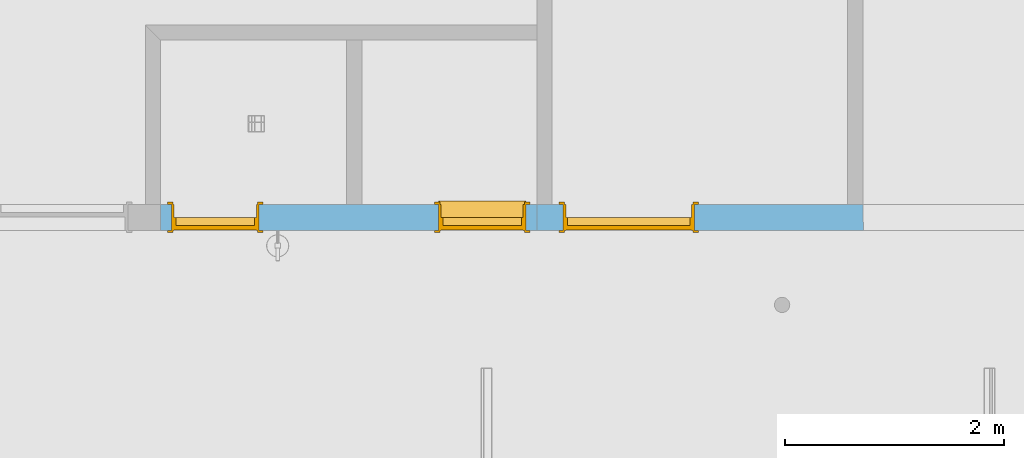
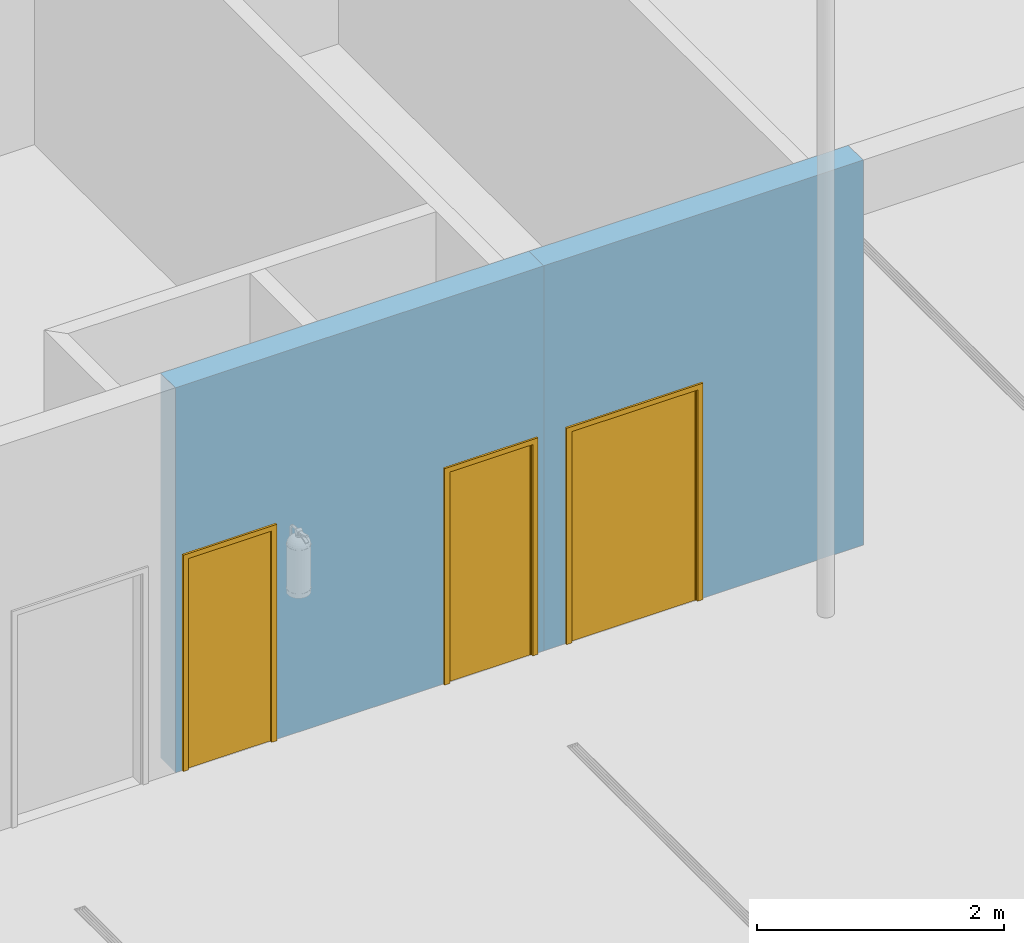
# One storey, part 42 of 112: 3 doors, 3 openings, plus 2 elements that do not belong to this part.
"""IFC2X3 building model written with IfcOpenShell, lengths in millimetres."""

from ifc_helpers import new_model, entity, si_unit, converted_unit, derived_unit, money_unit, direction, frame, origin_with_axes, origin_2d_with_axis, place, context, subcontext, project, spatial, polyline, rectangle, outline, extrude, faceted_brep, material, layer, layer_set, layer_usage, type_object, element, fill, save


model = new_model("IFC2X3")

# Units and contexts
model_context = context("Model", 3, precision=0.01, world=origin_with_axes(), true_north=direction((0.0, 1.0)))
body_context = subcontext(model_context, "Body", "Model", "MODEL_VIEW")
ifc_project = project(units=[si_unit("LENGTHUNIT", "METRE", prefix="MILLI"), si_unit("AREAUNIT", "SQUARE_METRE"), si_unit("VOLUMEUNIT", "CUBIC_METRE"), converted_unit("PLANEANGLEUNIT", "DEGREE", entity("IfcPlaneAngleMeasure", 0.0174532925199), si_unit("PLANEANGLEUNIT", "RADIAN"), dimensions=[0, 0, 0, 0, 0, 0, 0]), si_unit("SOLIDANGLEUNIT", "STERADIAN"), money_unit("EUR"), converted_unit("TIMEUNIT", "Year", entity("IfcTimeMeasure", 31556926.0), si_unit("TIMEUNIT", "SECOND"), dimensions=[0, 0, 1, 0, 0, 0, 0]), si_unit("MASSUNIT", "GRAM", prefix="KILO"), si_unit("THERMODYNAMICTEMPERATUREUNIT", "DEGREE_CELSIUS"), si_unit("LUMINOUSINTENSITYUNIT", "LUMEN"), si_unit("ENERGYUNIT", "JOULE", prefix="MEGA"), derived_unit("THERMALCONDUCTANCEUNIT", [(si_unit("POWERUNIT", "WATT"), 1), (si_unit("LENGTHUNIT", "METRE"), -1), (si_unit("THERMODYNAMICTEMPERATUREUNIT", "KELVIN"), -1)]), derived_unit("SPECIFICHEATCAPACITYUNIT", [(si_unit("ENERGYUNIT", "JOULE"), 1), (si_unit("MASSUNIT", "GRAM", prefix="KILO"), -1), (si_unit("THERMODYNAMICTEMPERATUREUNIT", "KELVIN"), -1)]), derived_unit("MASSDENSITYUNIT", [(si_unit("MASSUNIT", "GRAM", prefix="KILO"), 1), (si_unit("VOLUMEUNIT", "CUBIC_METRE"), -1)])], contexts=[model_context])

# Site, building, storey
site_placement = place(None, origin_with_axes())
site = spatial("IfcSite", under=ifc_project, at=site_placement, Name="Politse- ja Piirivalveameti ning Päästeameti ühishoone", CompositionType="ELEMENT")
building_placement = place(site_placement, origin_with_axes())
building = spatial("IfcBuilding", under=site, at=building_placement, Name="Politse- ja Piirivalveameti ning Päästeameti ühishoone", CompositionType="ELEMENT")
storey_placement = place(building_placement, origin_with_axes())
storey = spatial("IfcBuildingStorey", under=building, at=storey_placement, Name="Esimene korrus", CompositionType="ELEMENT", Elevation=0.0)

# Wall, openings, doors
ifc_material = material(Name="KON-05_Betoon Plokk - Konstuktsioon")
ifc_layer = layer(ifc_material, 240.0, ventilated="UNKNOWN")
ifc_layer_set = layer_set([ifc_layer], Name="SS-04_Sisesein 240")
ifc_layer_usage_1 = layer_usage(ifc_layer_set, "AXIS2", "NEGATIVE", 0.0)
wall_type = type_object("IfcWallType", Name="SS-04_Sisesein 240 240", PredefinedType="NOTDEFINED")
wall_1_placement = place(storey_placement, frame((44680.5326618, 13000.0198611, 0.0), z_axis=(0.0, 0.0, 1.0), x_axis=(1.0, 0.0, 0.0)))
wall_1 = element("IfcWallStandardCase", 1, at=wall_1_placement, inside=storey, type_object=wall_type, material=ifc_layer_usage_1, Name="SS-04", context=body_context, shape_type="SweptSolid", body=[
    extrude(outline(polyline([(0.0, -240.0), (3440.0, -240.0), (3440.0, 0.0), (0.0, 0.0), (0.0, -240.0)])), origin_with_axes(), (0.0, 0.0, 1.0), 3800.0),
])
opening_1_placement = place(wall_1_placement, frame((2939.68397339, 0.0, 0.0), z_axis=(0.0, 0.0, 1.0), x_axis=(1.0, 0.0, 0.0)))
opening_1 = element("IfcOpeningElement", 2, at=opening_1_placement, cuts=wall_1, Name="SU-01-6", context=body_context, shape_type="SweptSolid", body=[
    extrude(rectangle(XDim=800.0, YDim=2100.0, at=origin_2d_with_axis()), frame((0.0, -120.0, 1050.0), z_axis=(0.0, 1.0, 0.0), x_axis=(1.0, 0.0, 0.0)), (0.0, 0.0, 1.0), 360.0),
    extrude(rectangle(XDim=800.0, YDim=2100.0, at=origin_2d_with_axis()), frame((0.0, -120.0, 1050.0), z_axis=(0.0, -1.0, 0.0), x_axis=(1.0, 0.0, 0.0)), (0.0, 0.0, 1.0), 360.0),
    extrude(rectangle(XDim=874.0, YDim=2137.0, at=origin_2d_with_axis()), frame((0.0, -240.0, 1068.5), z_axis=(0.0, -1.0, 0.0), x_axis=(1.0, 0.0, 0.0)), (0.0, 0.0, 1.0), 360.0),
    extrude(rectangle(XDim=874.0, YDim=2132.0, at=origin_2d_with_axis()), frame((0.0, 0.0, 1071.0), z_axis=(0.0, 1.0, 0.0), x_axis=(1.0, 0.0, 0.0)), (0.0, 0.0, 1.0), 360.0),
])
opening_2_placement = place(wall_1_placement, frame((500.0, 0.0, 0.0), z_axis=(0.0, 0.0, 1.0), x_axis=(1.0, 0.0, 0.0)))
opening_2 = element("IfcOpeningElement", 3, at=opening_2_placement, cuts=wall_1, Name="SU-01-6", context=body_context, shape_type="SweptSolid", body=[
    extrude(rectangle(XDim=800.0, YDim=2100.0, at=origin_2d_with_axis()), frame((0.0, -120.0, 1050.0), z_axis=(0.0, 1.0, 0.0), x_axis=(1.0, 0.0, 0.0)), (0.0, 0.0, 1.0), 360.0),
    extrude(rectangle(XDim=800.0, YDim=2100.0, at=origin_2d_with_axis()), frame((0.0, -120.0, 1050.0), z_axis=(0.0, -1.0, 0.0), x_axis=(1.0, 0.0, 0.0)), (0.0, 0.0, 1.0), 360.0),
    extrude(rectangle(XDim=874.0, YDim=2137.0, at=origin_2d_with_axis()), frame((0.0, -240.0, 1068.5), z_axis=(0.0, -1.0, 0.0), x_axis=(1.0, 0.0, 0.0)), (0.0, 0.0, 1.0), 360.0),
    extrude(rectangle(XDim=874.0, YDim=2137.0, at=origin_2d_with_axis()), frame((0.0, 0.0, 1068.5), z_axis=(0.0, 1.0, 0.0), x_axis=(1.0, 0.0, 0.0)), (0.0, 0.0, 1.0), 360.0),
])
door_style_1 = type_object("IfcDoorStyle", Name="Door 23", ConstructionType="NOTDEFINED", OperationType="SINGLE_SWING_LEFT", ParameterTakesPrecedence=False, Sizeable=False)
door_1_placement = place(opening_1_placement, frame((400.0, 0.0, 0.0), z_axis=(0.0, 0.0, 1.0), x_axis=(-1.0, 0.0, 0.0)))
door_1 = element("IfcDoor", 4, at=door_1_placement, inside=storey, type_object=door_style_1, Name="SU-01-6", ObjectType="DOOR", OverallHeight=2100.0, OverallWidth=800.0, context=body_context, shape_type="Brep", body=[
    faceted_brep([(800.0, 120.0, 5.0), (800.0, 120.0, 30.0), (800.0, 0.0, 23.711066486), (800.0, 0.0, 5.0), (0.0, 120.0, 5.0), (0.0, 120.0, 30.0), (0.0, 0.0, 23.711066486), (0.0, -30.0, 22.1388331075), (800.0, -30.0, 22.1388331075), (800.0, -30.0, 5.0), (0.0, -30.0, 5.0), (0.0, 0.0, 5.0)], [[[0, 1, 2, 3]], [[4, 5, 1, 0]], [[1, 5, 6, 7, 8, 2]], [[3, 2, 8, 9]], [[0, 3, 9, 10, 11, 4]], [[11, 6, 5, 4]], [[10, 7, 6, 11]], [[9, 8, 7, 10]]]),
    faceted_brep([(800.0, 120.0, 0.0), (800.0, 120.0, 5.0), (800.0, 0.0, 5.0), (800.0, 0.0, 0.0), (0.0, 120.0, 0.0), (0.0, 120.0, 5.0), (0.0, 0.0, 5.0), (0.0, 0.0, 0.0)], [[[0, 1, 2, 3]], [[4, 5, 1, 0]], [[1, 5, 6, 2]], [[3, 2, 6, 7]], [[0, 3, 7, 4]], [[7, 6, 5, 4]]]),
    faceted_brep([(40.0, 120.0, 0.0), (40.0, 120.0, 12.0), (40.0, 195.0, 12.0), (40.0, 195.0, 0.0), (760.0, 120.0, 0.0), (760.0, 120.0, 12.0), (760.0, 195.0, 12.0), (772.0, 195.0, 12.0), (28.0, 195.0, 12.0), (28.0, 195.0, 0.0), (772.0, 195.0, 0.0), (760.0, 195.0, 0.0)], [[[0, 1, 2, 3]], [[4, 5, 1, 0]], [[1, 5, 6, 7, 8, 2]], [[3, 2, 8, 9]], [[0, 3, 9, 10, 11, 4]], [[11, 6, 5, 4]], [[10, 7, 6, 11]], [[9, 8, 7, 10]]]),
    faceted_brep([(800.0, 235.0, 0.0), (775.0, 235.0, 0.0), (775.0, 240.0, 0.0), (800.0, 240.0, 0.0), (800.0, 235.0, 2100.0), (775.0, 235.0, 2075.0), (775.0, 240.0, 2075.0), (800.0, 240.0, 2100.0)], [[[0, 1, 2, 3]], [[0, 4, 5, 1]], [[1, 5, 6, 2]], [[3, 2, 6, 7]], [[4, 0, 3, 7]], [[5, 4, 7, 6]]]),
    faceted_brep([(0.0, 235.0, 2100.0), (25.0, 235.0, 2075.0), (25.0, 240.0, 2075.0), (0.0, 240.0, 2100.0), (0.0, 235.0, 0.0), (25.0, 235.0, 0.0), (25.0, 240.0, 0.0), (0.0, 240.0, 0.0)], [[[0, 1, 2, 3]], [[0, 4, 5, 1]], [[1, 5, 6, 2]], [[3, 2, 6, 7]], [[4, 0, 3, 7]], [[5, 4, 7, 6]]]),
    faceted_brep([(775.0, 235.0, 2075.0), (25.0, 235.0, 2075.0), (25.0, 240.0, 2075.0), (775.0, 240.0, 2075.0), (800.0, 235.0, 2100.0), (0.0, 235.0, 2100.0), (0.0, 240.0, 2100.0), (800.0, 240.0, 2100.0)], [[[0, 1, 2, 3]], [[0, 4, 5, 1]], [[1, 5, 6, 2]], [[3, 2, 6, 7]], [[4, 0, 3, 7]], [[5, 4, 7, 6]]]),
    faceted_brep([(837.0, 259.0, 0.0), (837.0, 240.0, 0.0), (787.0, 240.0, 0.0), (787.0, 259.0, 0.0), (837.0, 259.0, 2137.0), (837.0, 240.0, 2137.0), (787.0, 240.0, 2087.0), (787.0, 259.0, 2087.0)], [[[0, 1, 2, 3]], [[4, 5, 1, 0]], [[1, 5, 6, 2]], [[3, 2, 6, 7]], [[0, 3, 7, 4]], [[7, 6, 5, 4]]]),
    faceted_brep([(-37.0, 259.0, 2137.0), (-37.0, 240.0, 2137.0), (13.0, 240.0, 2087.0), (13.0, 259.0, 2087.0), (-37.0, 259.0, 0.0), (-37.0, 240.0, 0.0), (13.0, 240.0, 0.0), (13.0, 259.0, 0.0)], [[[0, 1, 2, 3]], [[4, 5, 1, 0]], [[1, 5, 6, 2]], [[3, 2, 6, 7]], [[0, 3, 7, 4]], [[7, 6, 5, 4]]]),
    faceted_brep([(837.0, 259.0, 2137.0), (837.0, 240.0, 2137.0), (787.0, 240.0, 2087.0), (787.0, 259.0, 2087.0), (-37.0, 259.0, 2137.0), (-37.0, 240.0, 2137.0), (13.0, 240.0, 2087.0), (13.0, 259.0, 2087.0)], [[[0, 1, 2, 3]], [[4, 5, 1, 0]], [[1, 5, 6, 2]], [[3, 2, 6, 7]], [[0, 3, 7, 4]], [[7, 6, 5, 4]]]),
    faceted_brep([(775.0, 0.0, 23.711066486), (775.0, 0.0, 2075.0), (775.0, 120.0, 2075.0), (775.0, 120.0, 30.0), (800.0, 0.0, 23.711066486), (800.0, 0.0, 2100.0), (800.0, 120.0, 2100.0), (800.0, 120.0, 30.0)], [[[0, 1, 2, 3]], [[4, 5, 1, 0]], [[6, 2, 1, 5]], [[3, 2, 6, 7]], [[7, 4, 0, 3]], [[7, 6, 5, 4]]]),
    faceted_brep([(0.0, 0.0, 23.711066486), (0.0, 0.0, 2100.0), (0.0, 120.0, 2100.0), (0.0, 120.0, 30.0), (25.0, 0.0, 23.711066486), (25.0, 0.0, 2075.0), (25.0, 120.0, 2075.0), (25.0, 120.0, 30.0)], [[[0, 1, 2, 3]], [[4, 5, 1, 0]], [[6, 2, 1, 5]], [[3, 2, 6, 7]], [[7, 4, 0, 3]], [[7, 6, 5, 4]]]),
    faceted_brep([(800.0, 120.0, 2100.0), (800.0, 0.0, 2100.0), (775.0, 0.0, 2075.0), (775.0, 120.0, 2075.0), (0.0, 120.0, 2100.0), (0.0, 0.0, 2100.0), (25.0, 0.0, 2075.0), (25.0, 120.0, 2075.0)], [[[0, 1, 2, 3]], [[4, 5, 1, 0]], [[1, 5, 6, 2]], [[3, 2, 6, 7]], [[0, 3, 7, 4]], [[7, 6, 5, 4]]]),
    faceted_brep([(787.0, 0.0, 23.711066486), (787.0, -19.0, 22.7153186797), (787.0, -19.0, 2087.0), (787.0, 0.0, 2087.0), (800.0, 0.0, 23.711066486), (800.0, -19.0, 22.7153186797), (837.0, -19.0, 22.7153186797), (837.0, -19.0, 2137.0), (837.0, 0.0, 2137.0), (837.0, 0.0, 23.711066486)], [[[0, 1, 2, 3]], [[1, 0, 4, 5]], [[2, 1, 5, 6, 7]], [[3, 2, 7, 8]], [[0, 3, 8, 9, 4]], [[5, 4, 9, 6]], [[9, 8, 7, 6]]]),
    faceted_brep([(-37.0, -19.0, 2137.0), (-37.0, -19.0, 22.7153186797), (0.0, -19.0, 22.7153186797), (13.0, -19.0, 22.7153186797), (13.0, -19.0, 2087.0), (-37.0, 0.0, 2137.0), (-37.0, 0.0, 23.711066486), (0.0, 0.0, 23.711066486), (13.0, 0.0, 23.711066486), (13.0, 0.0, 2087.0)], [[[0, 1, 2, 3, 4]], [[1, 0, 5, 6]], [[6, 7, 2, 1]], [[2, 7, 8, 3]], [[8, 9, 4, 3]], [[5, 0, 4, 9]], [[6, 5, 9, 8, 7]]]),
    faceted_brep([(837.0, -19.0, 2137.0), (787.0, -19.0, 2087.0), (787.0, 0.0, 2087.0), (837.0, 0.0, 2137.0), (-37.0, -19.0, 2137.0), (13.0, -19.0, 2087.0), (13.0, 0.0, 2087.0), (-37.0, 0.0, 2137.0)], [[[0, 1, 2, 3]], [[0, 4, 5, 1]], [[1, 5, 6, 2]], [[3, 2, 6, 7]], [[4, 0, 3, 7]], [[5, 4, 7, 6]]]),
    faceted_brep([(760.0, 195.0, 0.0), (760.0, 120.0, 0.0), (760.0, 120.0, 2060.0), (760.0, 195.0, 2060.0), (772.0, 195.0, 0.0), (772.0, 235.0, 0.0), (800.0, 235.0, 0.0), (800.0, 120.0, 0.0), (800.0, 120.0, 2060.0), (772.0, 195.0, 2060.0), (800.0, 235.0, 2060.0), (772.0, 235.0, 2060.0)], [[[0, 1, 2, 3]], [[4, 5, 6, 7, 1, 0]], [[1, 7, 8, 2]], [[9, 3, 2, 8, 10, 11]], [[9, 4, 0, 3]], [[11, 5, 4, 9]], [[11, 10, 6, 5]], [[6, 10, 8, 7]]]),
    faceted_brep([(28.0, 195.0, 2060.0), (28.0, 235.0, 2060.0), (0.0, 235.0, 2060.0), (0.0, 120.0, 2060.0), (40.0, 120.0, 2060.0), (40.0, 195.0, 2060.0), (28.0, 195.0, 0.0), (28.0, 235.0, 0.0), (0.0, 235.0, 0.0), (0.0, 120.0, 0.0), (40.0, 120.0, 0.0), (40.0, 195.0, 0.0)], [[[0, 1, 2, 3, 4, 5]], [[0, 6, 7, 1]], [[7, 8, 2, 1]], [[2, 8, 9, 3]], [[3, 9, 10, 4]], [[5, 4, 10, 11]], [[5, 11, 6, 0]], [[6, 11, 10, 9, 8, 7]]]),
    faceted_brep([(772.0, 235.0, 2072.0), (28.0, 235.0, 2072.0), (28.0, 235.0, 2060.0), (0.0, 235.0, 2060.0), (0.0, 235.0, 2100.0), (800.0, 235.0, 2100.0), (800.0, 235.0, 2060.0), (772.0, 235.0, 2060.0), (772.0, 195.0, 2072.0), (28.0, 195.0, 2072.0), (28.0, 195.0, 2060.0), (40.0, 195.0, 2060.0), (40.0, 120.0, 2060.0), (0.0, 120.0, 2060.0), (0.0, 120.0, 2100.0), (800.0, 120.0, 2100.0), (800.0, 120.0, 2060.0), (772.0, 195.0, 2060.0), (760.0, 120.0, 2060.0), (760.0, 195.0, 2060.0)], [[[0, 1, 2, 3, 4, 5, 6, 7]], [[0, 8, 9, 1]], [[1, 9, 10, 2]], [[10, 11, 12, 13, 3, 2]], [[4, 3, 13, 14]], [[5, 4, 14, 15]], [[6, 5, 15, 16]], [[17, 7, 6, 16, 18, 19]], [[7, 17, 8, 0]], [[10, 9, 8, 17, 19, 11]], [[19, 18, 12, 11]], [[12, 18, 16, 15, 14, 13]]]),
    faceted_brep([(28.0, 235.0, 0.0), (772.0, 235.0, 0.0), (772.0, 195.0, 0.0), (28.0, 195.0, 0.0), (28.0, 235.0, 2072.0), (772.0, 235.0, 2072.0), (772.0, 195.0, 2072.0), (28.0, 195.0, 2072.0)], [[[0, 1, 2, 3]], [[0, 4, 5, 1]], [[1, 5, 6, 2]], [[3, 2, 6, 7]], [[4, 0, 3, 7]], [[5, 4, 7, 6]]]),
])
fill(opening_1, door_1)
door_2_placement = place(opening_2_placement, frame((400.0, 0.0, 0.0), z_axis=(0.0, 0.0, 1.0), x_axis=(-1.0, 0.0, 0.0)))
door_2 = element("IfcDoor", 5, at=door_2_placement, inside=storey, type_object=door_style_1, Name="SU-01-6", ObjectType="DOOR", OverallHeight=2100.0, OverallWidth=800.0, context=body_context, shape_type="Brep", body=[
    faceted_brep([(40.0, 120.0, 0.0), (40.0, 120.0, 12.0), (40.0, 195.0, 12.0), (40.0, 195.0, 0.0), (760.0, 120.0, 0.0), (760.0, 120.0, 12.0), (760.0, 195.0, 12.0), (772.0, 195.0, 12.0), (28.0, 195.0, 12.0), (28.0, 195.0, 0.0), (772.0, 195.0, 0.0), (760.0, 195.0, 0.0)], [[[0, 1, 2, 3]], [[4, 5, 1, 0]], [[1, 5, 6, 7, 8, 2]], [[3, 2, 8, 9]], [[0, 3, 9, 10, 11, 4]], [[11, 6, 5, 4]], [[10, 7, 6, 11]], [[9, 8, 7, 10]]]),
    faceted_brep([(800.0, 235.0, 0.0), (775.0, 235.0, 0.0), (775.0, 240.0, 0.0), (800.0, 240.0, 0.0), (800.0, 235.0, 2100.0), (775.0, 235.0, 2075.0), (775.0, 240.0, 2075.0), (800.0, 240.0, 2100.0)], [[[0, 1, 2, 3]], [[0, 4, 5, 1]], [[1, 5, 6, 2]], [[3, 2, 6, 7]], [[4, 0, 3, 7]], [[5, 4, 7, 6]]]),
    faceted_brep([(0.0, 235.0, 2100.0), (25.0, 235.0, 2075.0), (25.0, 240.0, 2075.0), (0.0, 240.0, 2100.0), (0.0, 235.0, 0.0), (25.0, 235.0, 0.0), (25.0, 240.0, 0.0), (0.0, 240.0, 0.0)], [[[0, 1, 2, 3]], [[0, 4, 5, 1]], [[1, 5, 6, 2]], [[3, 2, 6, 7]], [[4, 0, 3, 7]], [[5, 4, 7, 6]]]),
    faceted_brep([(775.0, 235.0, 2075.0), (25.0, 235.0, 2075.0), (25.0, 240.0, 2075.0), (775.0, 240.0, 2075.0), (800.0, 235.0, 2100.0), (0.0, 235.0, 2100.0), (0.0, 240.0, 2100.0), (800.0, 240.0, 2100.0)], [[[0, 1, 2, 3]], [[0, 4, 5, 1]], [[1, 5, 6, 2]], [[3, 2, 6, 7]], [[4, 0, 3, 7]], [[5, 4, 7, 6]]]),
    faceted_brep([(837.0, 259.0, 0.0), (837.0, 240.0, 0.0), (787.0, 240.0, 0.0), (787.0, 259.0, 0.0), (837.0, 259.0, 2137.0), (837.0, 240.0, 2137.0), (787.0, 240.0, 2087.0), (787.0, 259.0, 2087.0)], [[[0, 1, 2, 3]], [[4, 5, 1, 0]], [[1, 5, 6, 2]], [[3, 2, 6, 7]], [[0, 3, 7, 4]], [[7, 6, 5, 4]]]),
    faceted_brep([(-37.0, 259.0, 2137.0), (-37.0, 240.0, 2137.0), (13.0, 240.0, 2087.0), (13.0, 259.0, 2087.0), (-37.0, 259.0, 0.0), (-37.0, 240.0, 0.0), (13.0, 240.0, 0.0), (13.0, 259.0, 0.0)], [[[0, 1, 2, 3]], [[4, 5, 1, 0]], [[1, 5, 6, 2]], [[3, 2, 6, 7]], [[0, 3, 7, 4]], [[7, 6, 5, 4]]]),
    faceted_brep([(837.0, 259.0, 2137.0), (837.0, 240.0, 2137.0), (787.0, 240.0, 2087.0), (787.0, 259.0, 2087.0), (-37.0, 259.0, 2137.0), (-37.0, 240.0, 2137.0), (13.0, 240.0, 2087.0), (13.0, 259.0, 2087.0)], [[[0, 1, 2, 3]], [[4, 5, 1, 0]], [[1, 5, 6, 2]], [[3, 2, 6, 7]], [[0, 3, 7, 4]], [[7, 6, 5, 4]]]),
    faceted_brep([(800.0, 120.0, 0.0), (800.0, 0.0, 0.0), (775.0, 0.0, 0.0), (775.0, 120.0, 0.0), (800.0, 120.0, 2100.0), (800.0, 0.0, 2100.0), (775.0, 0.0, 2075.0), (775.0, 120.0, 2075.0)], [[[0, 1, 2, 3]], [[4, 5, 1, 0]], [[1, 5, 6, 2]], [[3, 2, 6, 7]], [[0, 3, 7, 4]], [[7, 6, 5, 4]]]),
    faceted_brep([(0.0, 120.0, 2100.0), (0.0, 0.0, 2100.0), (25.0, 0.0, 2075.0), (25.0, 120.0, 2075.0), (0.0, 120.0, 0.0), (0.0, 0.0, 0.0), (25.0, 0.0, 0.0), (25.0, 120.0, 0.0)], [[[0, 1, 2, 3]], [[4, 5, 1, 0]], [[1, 5, 6, 2]], [[3, 2, 6, 7]], [[0, 3, 7, 4]], [[7, 6, 5, 4]]]),
    faceted_brep([(800.0, 120.0, 2100.0), (800.0, 0.0, 2100.0), (775.0, 0.0, 2075.0), (775.0, 120.0, 2075.0), (0.0, 120.0, 2100.0), (0.0, 0.0, 2100.0), (25.0, 0.0, 2075.0), (25.0, 120.0, 2075.0)], [[[0, 1, 2, 3]], [[4, 5, 1, 0]], [[1, 5, 6, 2]], [[3, 2, 6, 7]], [[0, 3, 7, 4]], [[7, 6, 5, 4]]]),
    faceted_brep([(837.0, -19.0, 0.0), (787.0, -19.0, 0.0), (787.0, 0.0, 0.0), (837.0, 0.0, 0.0), (837.0, -19.0, 2137.0), (787.0, -19.0, 2087.0), (787.0, 0.0, 2087.0), (837.0, 0.0, 2137.0)], [[[0, 1, 2, 3]], [[0, 4, 5, 1]], [[1, 5, 6, 2]], [[3, 2, 6, 7]], [[4, 0, 3, 7]], [[5, 4, 7, 6]]]),
    faceted_brep([(-37.0, -19.0, 2137.0), (13.0, -19.0, 2087.0), (13.0, 0.0, 2087.0), (-37.0, 0.0, 2137.0), (-37.0, -19.0, 0.0), (13.0, -19.0, 0.0), (13.0, 0.0, 0.0), (-37.0, 0.0, 0.0)], [[[0, 1, 2, 3]], [[0, 4, 5, 1]], [[1, 5, 6, 2]], [[3, 2, 6, 7]], [[4, 0, 3, 7]], [[5, 4, 7, 6]]]),
    faceted_brep([(837.0, -19.0, 2137.0), (787.0, -19.0, 2087.0), (787.0, 0.0, 2087.0), (837.0, 0.0, 2137.0), (-37.0, -19.0, 2137.0), (13.0, -19.0, 2087.0), (13.0, 0.0, 2087.0), (-37.0, 0.0, 2137.0)], [[[0, 1, 2, 3]], [[0, 4, 5, 1]], [[1, 5, 6, 2]], [[3, 2, 6, 7]], [[4, 0, 3, 7]], [[5, 4, 7, 6]]]),
    faceted_brep([(760.0, 195.0, 0.0), (760.0, 120.0, 0.0), (760.0, 120.0, 2060.0), (760.0, 195.0, 2060.0), (772.0, 195.0, 0.0), (772.0, 235.0, 0.0), (800.0, 235.0, 0.0), (800.0, 120.0, 0.0), (800.0, 120.0, 2060.0), (772.0, 195.0, 2060.0), (800.0, 235.0, 2060.0), (772.0, 235.0, 2060.0)], [[[0, 1, 2, 3]], [[4, 5, 6, 7, 1, 0]], [[1, 7, 8, 2]], [[9, 3, 2, 8, 10, 11]], [[9, 4, 0, 3]], [[11, 5, 4, 9]], [[11, 10, 6, 5]], [[6, 10, 8, 7]]]),
    faceted_brep([(28.0, 195.0, 2060.0), (28.0, 235.0, 2060.0), (0.0, 235.0, 2060.0), (0.0, 120.0, 2060.0), (40.0, 120.0, 2060.0), (40.0, 195.0, 2060.0), (28.0, 195.0, 0.0), (28.0, 235.0, 0.0), (0.0, 235.0, 0.0), (0.0, 120.0, 0.0), (40.0, 120.0, 0.0), (40.0, 195.0, 0.0)], [[[0, 1, 2, 3, 4, 5]], [[0, 6, 7, 1]], [[7, 8, 2, 1]], [[2, 8, 9, 3]], [[3, 9, 10, 4]], [[5, 4, 10, 11]], [[5, 11, 6, 0]], [[6, 11, 10, 9, 8, 7]]]),
    faceted_brep([(772.0, 235.0, 2072.0), (28.0, 235.0, 2072.0), (28.0, 235.0, 2060.0), (0.0, 235.0, 2060.0), (0.0, 235.0, 2100.0), (800.0, 235.0, 2100.0), (800.0, 235.0, 2060.0), (772.0, 235.0, 2060.0), (772.0, 195.0, 2072.0), (28.0, 195.0, 2072.0), (28.0, 195.0, 2060.0), (40.0, 195.0, 2060.0), (40.0, 120.0, 2060.0), (0.0, 120.0, 2060.0), (0.0, 120.0, 2100.0), (800.0, 120.0, 2100.0), (800.0, 120.0, 2060.0), (772.0, 195.0, 2060.0), (760.0, 120.0, 2060.0), (760.0, 195.0, 2060.0)], [[[0, 1, 2, 3, 4, 5, 6, 7]], [[0, 8, 9, 1]], [[1, 9, 10, 2]], [[10, 11, 12, 13, 3, 2]], [[4, 3, 13, 14]], [[5, 4, 14, 15]], [[6, 5, 15, 16]], [[17, 7, 6, 16, 18, 19]], [[7, 17, 8, 0]], [[10, 9, 8, 17, 19, 11]], [[19, 18, 12, 11]], [[12, 18, 16, 15, 14, 13]]]),
    faceted_brep([(28.0, 235.0, 0.0), (772.0, 235.0, 0.0), (772.0, 195.0, 0.0), (28.0, 195.0, 0.0), (28.0, 235.0, 2072.0), (772.0, 235.0, 2072.0), (772.0, 195.0, 2072.0), (28.0, 195.0, 2072.0)], [[[0, 1, 2, 3]], [[0, 4, 5, 1]], [[1, 5, 6, 2]], [[3, 2, 6, 7]], [[4, 0, 3, 7]], [[5, 4, 7, 6]]]),
])
fill(opening_2, door_2)

# Wall, opening, door
ifc_layer_usage_2 = layer_usage(ifc_layer_set, "AXIS2", "NEGATIVE", 0.0)
wall_2_placement = place(storey_placement, frame((48120.5326618, 13000.0198611, 0.0), z_axis=(0.0, 0.0, 1.0), x_axis=(1.0, 0.0, 0.0)))
wall_2 = element("IfcWallStandardCase", 6, at=wall_2_placement, inside=storey, type_object=wall_type, material=ifc_layer_usage_2, Name="SS-04", context=body_context, shape_type="SweptSolid", body=[
    extrude(outline(polyline([(0.0, -240.0), (2985.00519444, -240.0), (2980.00519444, 0.0), (0.0, 0.0), (0.0, -240.0)])), origin_with_axes(), (0.0, 0.0, 1.0), 3800.0),
])
opening_3_placement = place(wall_2_placement, frame((840.0, 0.0, 0.0), z_axis=(0.0, 0.0, 1.0), x_axis=(1.0, 0.0, 0.0)))
opening_3 = element("IfcOpeningElement", 7, at=opening_3_placement, cuts=wall_2, Name="TU-01-2", context=body_context, shape_type="SweptSolid", body=[
    extrude(rectangle(XDim=1200.0, YDim=2100.0, at=origin_2d_with_axis()), frame((0.0, -120.0, 1050.0), z_axis=(0.0, 1.0, 0.0), x_axis=(1.0, 0.0, 0.0)), (0.0, 0.0, 1.0), 360.0),
    extrude(rectangle(XDim=1200.0, YDim=2100.0, at=origin_2d_with_axis()), frame((0.0, -120.0, 1050.0), z_axis=(0.0, -1.0, 0.0), x_axis=(1.0, 0.0, 0.0)), (0.0, 0.0, 1.0), 360.0),
    extrude(rectangle(XDim=1274.0, YDim=2137.0, at=origin_2d_with_axis()), frame((0.0, -240.0, 1068.5), z_axis=(0.0, -1.0, 0.0), x_axis=(1.0, 0.0, 0.0)), (0.0, 0.0, 1.0), 360.0),
    extrude(rectangle(XDim=1274.0, YDim=2137.0, at=origin_2d_with_axis()), frame((0.0, 0.0, 1068.5), z_axis=(0.0, 1.0, 0.0), x_axis=(1.0, 0.0, 0.0)), (0.0, 0.0, 1.0), 360.0),
])
door_style_2 = type_object("IfcDoorStyle", Name="Double Door Asymmetric 23", ConstructionType="NOTDEFINED", OperationType="DOUBLE_DOOR_SINGLE_SWING", ParameterTakesPrecedence=False, Sizeable=False)
door_3_placement = place(opening_3_placement, frame((600.0, 0.0, 0.0), z_axis=(0.0, 0.0, 1.0), x_axis=(-1.0, 0.0, 0.0)))
door_3 = element("IfcDoor", 8, at=door_3_placement, inside=storey, type_object=door_style_2, Name="TU-01-2", ObjectType="DOOR", OverallHeight=2100.0, OverallWidth=1200.0, context=body_context, shape_type="Brep", body=[
    faceted_brep([(40.0, 120.0, 0.0), (40.0, 120.0, 12.0), (40.0, 195.0, 12.0), (40.0, 195.0, 0.0), (1160.0, 120.0, 0.0), (1160.0, 120.0, 12.0), (1160.0, 195.0, 12.0), (1172.0, 195.0, 12.0), (28.0, 195.0, 12.0), (28.0, 195.0, 0.0), (1172.0, 195.0, 0.0), (1160.0, 195.0, 0.0)], [[[0, 1, 2, 3]], [[4, 5, 1, 0]], [[1, 5, 6, 7, 8, 2]], [[3, 2, 8, 9]], [[0, 3, 9, 10, 11, 4]], [[11, 6, 5, 4]], [[10, 7, 6, 11]], [[9, 8, 7, 10]]]),
    faceted_brep([(1200.0, 235.0, 0.0), (1175.0, 235.0, 0.0), (1175.0, 240.0, 0.0), (1200.0, 240.0, 0.0), (1200.0, 235.0, 2100.0), (1175.0, 235.0, 2075.0), (1175.0, 240.0, 2075.0), (1200.0, 240.0, 2100.0)], [[[0, 1, 2, 3]], [[0, 4, 5, 1]], [[1, 5, 6, 2]], [[3, 2, 6, 7]], [[4, 0, 3, 7]], [[5, 4, 7, 6]]]),
    faceted_brep([(0.0, 235.0, 2100.0), (25.0, 235.0, 2075.0), (25.0, 240.0, 2075.0), (0.0, 240.0, 2100.0), (0.0, 235.0, 0.0), (25.0, 235.0, 0.0), (25.0, 240.0, 0.0), (0.0, 240.0, 0.0)], [[[0, 1, 2, 3]], [[0, 4, 5, 1]], [[1, 5, 6, 2]], [[3, 2, 6, 7]], [[4, 0, 3, 7]], [[5, 4, 7, 6]]]),
    faceted_brep([(1175.0, 235.0, 2075.0), (25.0, 235.0, 2075.0), (25.0, 240.0, 2075.0), (1175.0, 240.0, 2075.0), (1200.0, 235.0, 2100.0), (0.0, 235.0, 2100.0), (0.0, 240.0, 2100.0), (1200.0, 240.0, 2100.0)], [[[0, 1, 2, 3]], [[0, 4, 5, 1]], [[1, 5, 6, 2]], [[3, 2, 6, 7]], [[4, 0, 3, 7]], [[5, 4, 7, 6]]]),
    faceted_brep([(1237.0, 259.0, 0.0), (1237.0, 240.0, 0.0), (1187.0, 240.0, 0.0), (1187.0, 259.0, 0.0), (1237.0, 259.0, 2137.0), (1237.0, 240.0, 2137.0), (1187.0, 240.0, 2087.0), (1187.0, 259.0, 2087.0)], [[[0, 1, 2, 3]], [[4, 5, 1, 0]], [[1, 5, 6, 2]], [[3, 2, 6, 7]], [[0, 3, 7, 4]], [[7, 6, 5, 4]]]),
    faceted_brep([(-37.0, 259.0, 2137.0), (-37.0, 240.0, 2137.0), (13.0, 240.0, 2087.0), (13.0, 259.0, 2087.0), (-37.0, 259.0, 0.0), (-37.0, 240.0, 0.0), (13.0, 240.0, 0.0), (13.0, 259.0, 0.0)], [[[0, 1, 2, 3]], [[4, 5, 1, 0]], [[1, 5, 6, 2]], [[3, 2, 6, 7]], [[0, 3, 7, 4]], [[7, 6, 5, 4]]]),
    faceted_brep([(1237.0, 259.0, 2137.0), (1237.0, 240.0, 2137.0), (1187.0, 240.0, 2087.0), (1187.0, 259.0, 2087.0), (-37.0, 259.0, 2137.0), (-37.0, 240.0, 2137.0), (13.0, 240.0, 2087.0), (13.0, 259.0, 2087.0)], [[[0, 1, 2, 3]], [[4, 5, 1, 0]], [[1, 5, 6, 2]], [[3, 2, 6, 7]], [[0, 3, 7, 4]], [[7, 6, 5, 4]]]),
    faceted_brep([(1200.0, 120.0, 0.0), (1200.0, 0.0, 0.0), (1175.0, 0.0, 0.0), (1175.0, 120.0, 0.0), (1200.0, 120.0, 2100.0), (1200.0, 0.0, 2100.0), (1175.0, 0.0, 2075.0), (1175.0, 120.0, 2075.0)], [[[0, 1, 2, 3]], [[4, 5, 1, 0]], [[1, 5, 6, 2]], [[3, 2, 6, 7]], [[0, 3, 7, 4]], [[7, 6, 5, 4]]]),
    faceted_brep([(0.0, 120.0, 2100.0), (0.0, 0.0, 2100.0), (25.0, 0.0, 2075.0), (25.0, 120.0, 2075.0), (0.0, 120.0, 0.0), (0.0, 0.0, 0.0), (25.0, 0.0, 0.0), (25.0, 120.0, 0.0)], [[[0, 1, 2, 3]], [[4, 5, 1, 0]], [[1, 5, 6, 2]], [[3, 2, 6, 7]], [[0, 3, 7, 4]], [[7, 6, 5, 4]]]),
    faceted_brep([(1200.0, 120.0, 2100.0), (1200.0, 0.0, 2100.0), (1175.0, 0.0, 2075.0), (1175.0, 120.0, 2075.0), (0.0, 120.0, 2100.0), (0.0, 0.0, 2100.0), (25.0, 0.0, 2075.0), (25.0, 120.0, 2075.0)], [[[0, 1, 2, 3]], [[4, 5, 1, 0]], [[1, 5, 6, 2]], [[3, 2, 6, 7]], [[0, 3, 7, 4]], [[7, 6, 5, 4]]]),
    faceted_brep([(1237.0, -19.0, 0.0), (1187.0, -19.0, 0.0), (1187.0, 0.0, 0.0), (1237.0, 0.0, 0.0), (1237.0, -19.0, 2137.0), (1187.0, -19.0, 2087.0), (1187.0, 0.0, 2087.0), (1237.0, 0.0, 2137.0)], [[[0, 1, 2, 3]], [[0, 4, 5, 1]], [[1, 5, 6, 2]], [[3, 2, 6, 7]], [[4, 0, 3, 7]], [[5, 4, 7, 6]]]),
    faceted_brep([(-37.0, -19.0, 2137.0), (13.0, -19.0, 2087.0), (13.0, 0.0, 2087.0), (-37.0, 0.0, 2137.0), (-37.0, -19.0, 0.0), (13.0, -19.0, 0.0), (13.0, 0.0, 0.0), (-37.0, 0.0, 0.0)], [[[0, 1, 2, 3]], [[0, 4, 5, 1]], [[1, 5, 6, 2]], [[3, 2, 6, 7]], [[4, 0, 3, 7]], [[5, 4, 7, 6]]]),
    faceted_brep([(1237.0, -19.0, 2137.0), (1187.0, -19.0, 2087.0), (1187.0, 0.0, 2087.0), (1237.0, 0.0, 2137.0), (-37.0, -19.0, 2137.0), (13.0, -19.0, 2087.0), (13.0, 0.0, 2087.0), (-37.0, 0.0, 2137.0)], [[[0, 1, 2, 3]], [[0, 4, 5, 1]], [[1, 5, 6, 2]], [[3, 2, 6, 7]], [[4, 0, 3, 7]], [[5, 4, 7, 6]]]),
    faceted_brep([(1160.0, 195.0, 0.0), (1160.0, 120.0, 0.0), (1160.0, 120.0, 2060.0), (1160.0, 195.0, 2060.0), (1172.0, 195.0, 0.0), (1172.0, 235.0, 0.0), (1200.0, 235.0, 0.0), (1200.0, 120.0, 0.0), (1200.0, 120.0, 2060.0), (1172.0, 195.0, 2060.0), (1200.0, 235.0, 2060.0), (1172.0, 235.0, 2060.0)], [[[0, 1, 2, 3]], [[4, 5, 6, 7, 1, 0]], [[1, 7, 8, 2]], [[9, 3, 2, 8, 10, 11]], [[9, 4, 0, 3]], [[11, 5, 4, 9]], [[11, 10, 6, 5]], [[6, 10, 8, 7]]]),
    faceted_brep([(28.0, 195.0, 2060.0), (28.0, 235.0, 2060.0), (0.0, 235.0, 2060.0), (0.0, 120.0, 2060.0), (40.0, 120.0, 2060.0), (40.0, 195.0, 2060.0), (28.0, 195.0, 0.0), (28.0, 235.0, 0.0), (0.0, 235.0, 0.0), (0.0, 120.0, 0.0), (40.0, 120.0, 0.0), (40.0, 195.0, 0.0)], [[[0, 1, 2, 3, 4, 5]], [[0, 6, 7, 1]], [[7, 8, 2, 1]], [[2, 8, 9, 3]], [[3, 9, 10, 4]], [[5, 4, 10, 11]], [[5, 11, 6, 0]], [[6, 11, 10, 9, 8, 7]]]),
    faceted_brep([(1172.0, 235.0, 2072.0), (28.0, 235.0, 2072.0), (28.0, 235.0, 2060.0), (0.0, 235.0, 2060.0), (0.0, 235.0, 2100.0), (1200.0, 235.0, 2100.0), (1200.0, 235.0, 2060.0), (1172.0, 235.0, 2060.0), (1172.0, 195.0, 2072.0), (28.0, 195.0, 2072.0), (28.0, 195.0, 2060.0), (40.0, 195.0, 2060.0), (40.0, 120.0, 2060.0), (0.0, 120.0, 2060.0), (0.0, 120.0, 2100.0), (1200.0, 120.0, 2100.0), (1200.0, 120.0, 2060.0), (1172.0, 195.0, 2060.0), (1160.0, 120.0, 2060.0), (1160.0, 195.0, 2060.0)], [[[0, 1, 2, 3, 4, 5, 6, 7]], [[0, 8, 9, 1]], [[1, 9, 10, 2]], [[10, 11, 12, 13, 3, 2]], [[4, 3, 13, 14]], [[5, 4, 14, 15]], [[6, 5, 15, 16]], [[17, 7, 6, 16, 18, 19]], [[7, 17, 8, 0]], [[10, 9, 8, 17, 19, 11]], [[19, 18, 12, 11]], [[12, 18, 16, 15, 14, 13]]]),
    faceted_brep([(28.0, 235.0, 0.0), (328.0, 235.0, 0.0), (328.0, 195.0, 0.0), (28.0, 195.0, 0.0), (28.0, 235.0, 2072.0), (328.0, 235.0, 2072.0), (328.0, 195.0, 2072.0), (28.0, 195.0, 2072.0)], [[[0, 1, 2, 3]], [[0, 4, 5, 1]], [[1, 5, 6, 2]], [[3, 2, 6, 7]], [[4, 0, 3, 7]], [[5, 4, 7, 6]]]),
    faceted_brep([(1172.0, 235.0, 0.0), (1172.0, 195.0, 0.0), (328.0, 195.0, 0.0), (328.0, 235.0, 0.0), (1172.0, 235.0, 2072.0), (1172.0, 195.0, 2072.0), (328.0, 195.0, 2072.0), (328.0, 235.0, 2072.0)], [[[0, 1, 2, 3]], [[4, 5, 1, 0]], [[1, 5, 6, 2]], [[3, 2, 6, 7]], [[0, 3, 7, 4]], [[7, 6, 5, 4]]]),
])
fill(opening_3, door_3)

save(model, "model.ifc")
